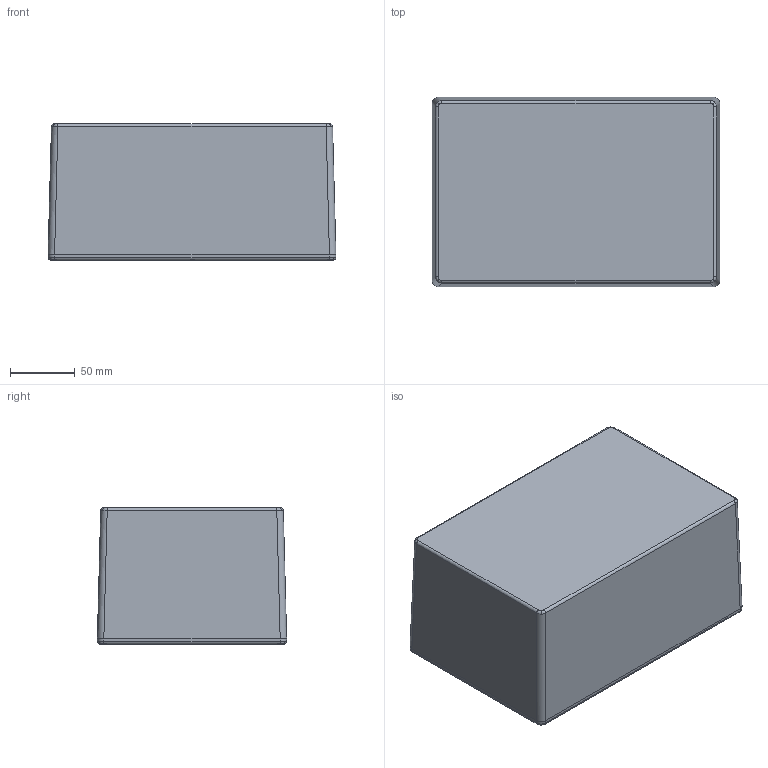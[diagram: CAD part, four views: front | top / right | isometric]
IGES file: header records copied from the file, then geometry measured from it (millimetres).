
Global section: file name: 1550H.iam; native system: Autodesk Inventor 2014; preprocessor: unknown; author: fwarzocha; date: 20141029.101338; units: millimetre
Bounding box: 222 x 146 x 105.1 mm (x, y, z)
Volume: 297451.8 mm3; surface area: 276031.5 mm2
Topology: 8 solids, 8 shells, 1043 faces, 2828 edges, 1850 vertices
Faces by surface type: plane 407, bspline 380, revolution 168, cylinder 50, cone 38
Full cylindrical faces by diameter (mm): 3.43 x6
